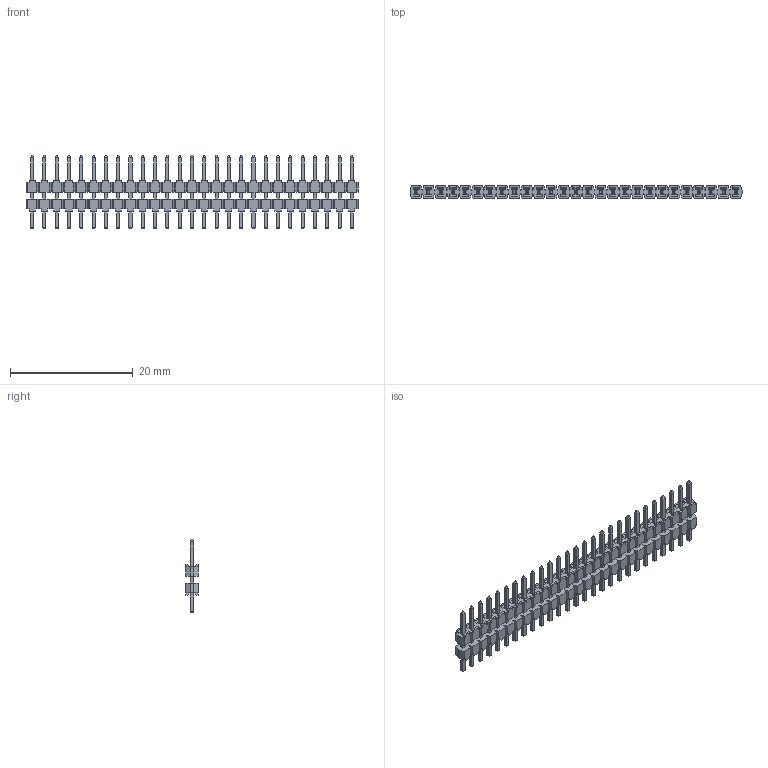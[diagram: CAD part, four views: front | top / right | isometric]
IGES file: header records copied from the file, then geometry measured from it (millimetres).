
Global section: file name: N:\GOLF_VI_2mm_UGII\9514XX_901XX06_AR\951427-9011106-AR.igs; native system: NX V3.0; preprocessor: UGS NX IGES V4.0; date: 20070314.114549; units: millimetre
Bounding box: 54 x 2 x 11.9 mm (x, y, z)
Surface area: 1456.1 mm2 (no closed solid volume)
Topology: 0 solids, 0 shells, 1358 faces, 7369 edges, 7369 vertices
Faces by surface type: bspline 1358
